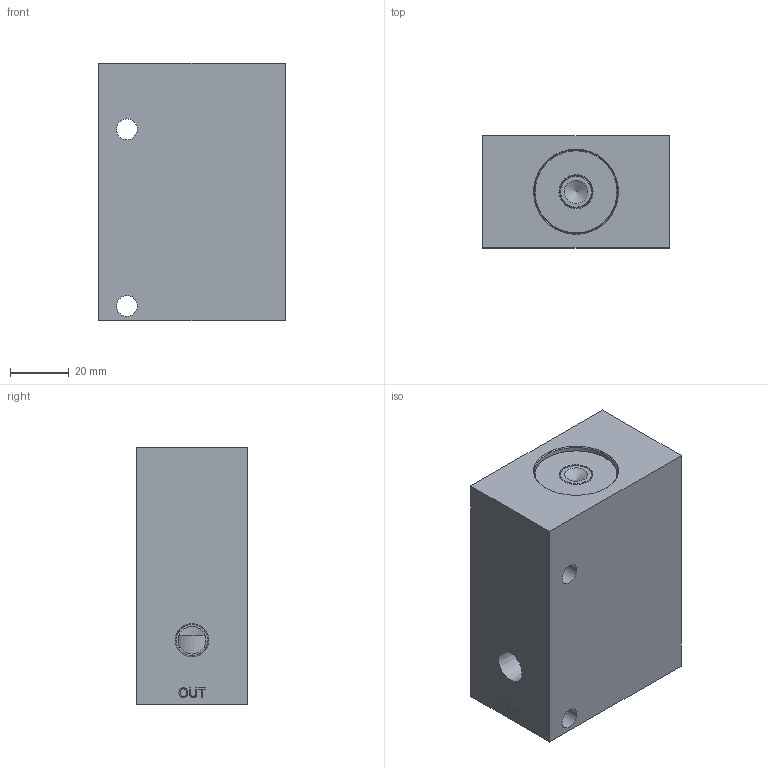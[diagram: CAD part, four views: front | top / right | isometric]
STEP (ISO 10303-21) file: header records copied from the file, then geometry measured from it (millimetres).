
FILE_DESCRIPTION(/* description */ (''),/* implementation_level */ '2;1');
FILE_NAME(/* name */ 'L:\ALADCO\Advertising\3D Content\Valves\Step Files - 2014-11-19 thru Present\41250X.stp',/* time_stamp */ '2014-11-19T16:13:51-06:00',/* author */ ('dmatz'),/* organization */ (''),/* preprocessor_version */ 'ST-DEVELOPER v15.2',/* originating_system */ 'Autodesk Inventor 2014',/* authorisation */ '');
FILE_SCHEMA (('AUTOMOTIVE_DESIGN { 1 0 10303 214 3 1 1 }'));
Length unit declared in the file: inch
Products named in the file (5): 552500NPTF; 311020; 311015; 301076; 512501
Bounding box: 63.5 x 38.1 x 87.99 mm (x, y, z)
Volume: 175558.6 mm3; surface area: 40011.1 mm2
Topology: 4 solids, 4 shells, 187 faces, 429 edges, 280 vertices
Faces by surface type: plane 99, cylinder 29, bspline 26, cone 19, torus 14
Full cylindrical faces by diameter (mm): 1.499 x1, 6.629 x1, 7.112 x2, 7.938 x1, 9.144 x1, 9.525 x2, 10.719 x3, 11.049 x2, 11.1 x1, 12.7 x1, 13.081 x1, 15.081 x1, 17.577 x1, 22.149 x1, 24.409 x1, 24.435 x1, 25.4 x2, 28.524 x4, 28.575 x2
Entity records: 5407 total; most frequent: CARTESIAN_POINT 1375, DIRECTION 718, ORIENTED_EDGE 688, EDGE_CURVE 344, EDGE_LOOP 296, VERTEX_POINT 260, AXIS2_PLACEMENT_3D 259, LINE 200
